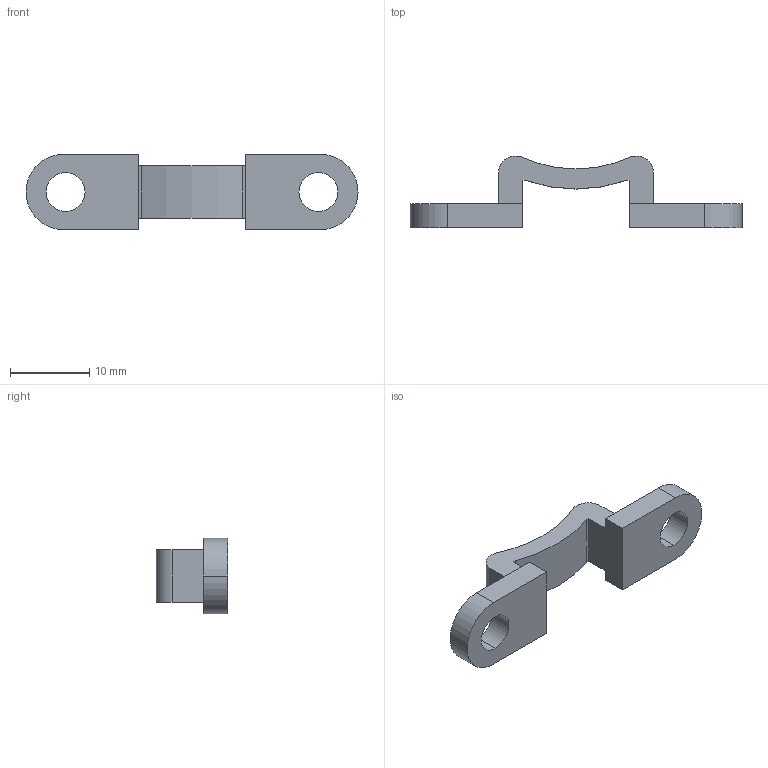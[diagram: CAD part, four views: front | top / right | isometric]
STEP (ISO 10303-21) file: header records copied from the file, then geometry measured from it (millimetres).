
FILE_DESCRIPTION (( 'STEP AP214' ), '1' );
FILE_NAME ('2071_V01_REF_STP_MALE-LOCK_AR-CLIP.STEP', '2025-10-14T14:26:23', ( '' ), ( '' ), 'SwSTEP 2.0', 'SolidWorks 2025', '' );
FILE_SCHEMA (( 'AUTOMOTIVE_DESIGN' ));
Length unit declared in the file: inch
Products named in the file (1): 2071_V01_REF_STP_MALE-LOCK_AR-CLIP
Bounding box: 42.01 x 9.04 x 9.53 mm (x, y, z)
Volume: 1114.3 mm3; surface area: 1217.1 mm2
Topology: 1 solids, 1 shells, 30 faces, 84 edges, 56 vertices
Faces by surface type: plane 18, cylinder 12
Entity records: 1007 total; most frequent: CARTESIAN_POINT 171, DIRECTION 170, ORIENTED_EDGE 168, EDGE_CURVE 84, LINE 60, VECTOR 60, VERTEX_POINT 56, AXIS2_PLACEMENT_3D 55
